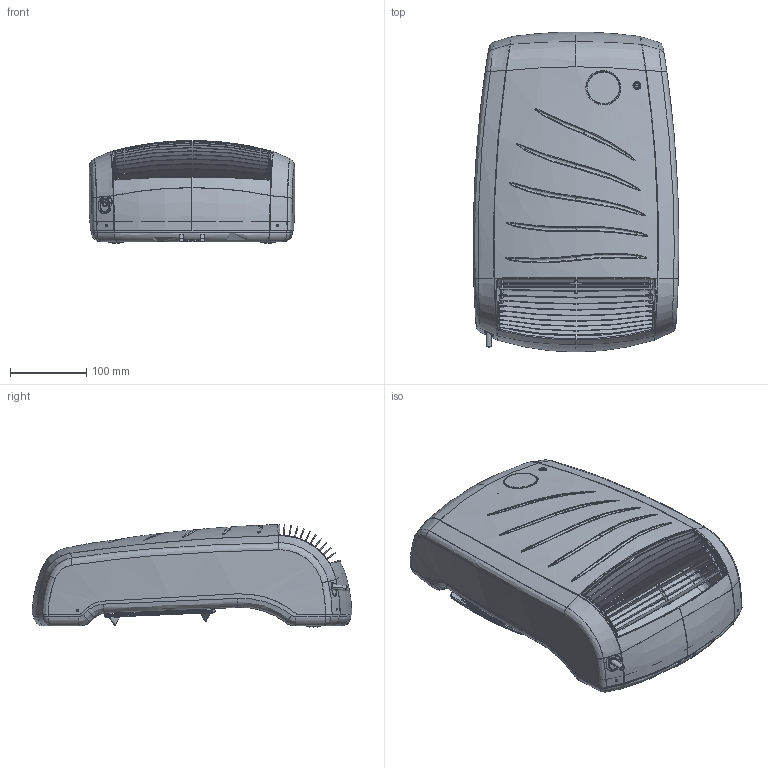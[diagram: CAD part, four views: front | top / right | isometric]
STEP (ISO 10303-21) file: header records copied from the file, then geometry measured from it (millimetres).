
FILE_DESCRIPTION(('FreeCAD Model'),'2;1');
FILE_NAME('Open CASCADE Shape Model','2026-06-16T08:00:20',(''),(''), 'Open CASCADE STEP processor 7.8','FreeCAD','Unknown');
FILE_SCHEMA(('AUTOMOTIVE_DESIGN { 1 0 10303 214 1 1 1 1 }'));
Length unit declared in the file: millimetre
Products named in the file (13): Unnamed; SCOCCA-POSTERIORE; CES_SUPPORTO-MANOPOLE; SOLID; LAMPADINA; GR-GRIGLIA_ASM; TRAVERSA-CENTRALE-GRIGLIA; ALETTA-GRIGLIA; TRAVERSA-LATERALE-GRIGLIA; SCOCCA-FRONTALE-ATLANTIC; GEMMA; FILTRO; CES_SUPPORTO-SONDA
Assembly tree (22 placements, depth 3):
  Unnamed
    SCOCCA-POSTERIORE
    CES_SUPPORTO-MANOPOLE
      SOLID
    LAMPADINA
    GR-GRIGLIA_ASM
      TRAVERSA-CENTRALE-GRIGLIA
      ALETTA-GRIGLIA  x10
      TRAVERSA-LATERALE-GRIGLIA  x2
    SCOCCA-FRONTALE-ATLANTIC
    GEMMA
    FILTRO
    CES_SUPPORTO-SONDA
Bounding box: 269.98 x 420 x 135.12 mm (x, y, z)
Volume: 288420.8 mm3; surface area: 700894.3 mm2
Topology: 20 solids, 20 shells, 1489 faces, 3612 edges, 2182 vertices
Faces by surface type: bspline 525, plane 430, cylinder 377, torus 88, cone 50, sphere 12, extrusion 7
Entity records: 80345 total; most frequent: CARTESIAN_POINT 51642, ORIENTED_EDGE 6532, DIRECTION 4764, EDGE_CURVE 3266, VERTEX_POINT 1960, AXIS2_PLACEMENT_3D 1726, FACE_BOUND 1468, EDGE_LOOP 1468
